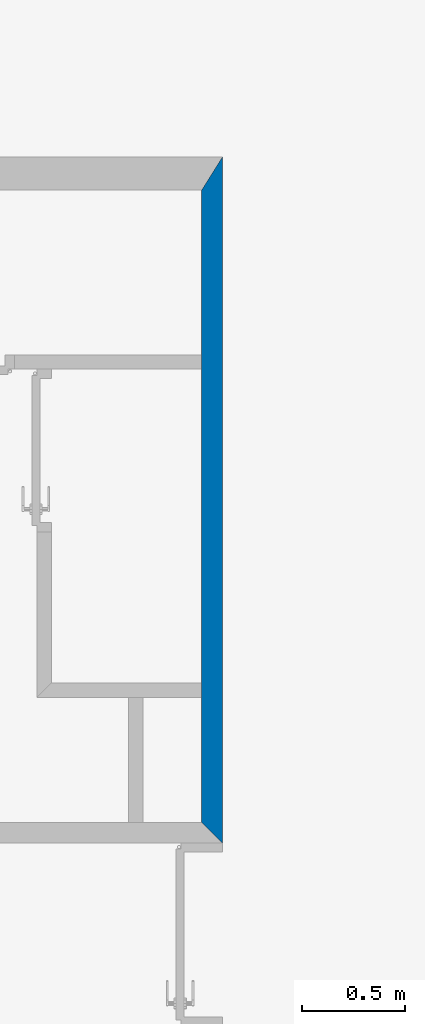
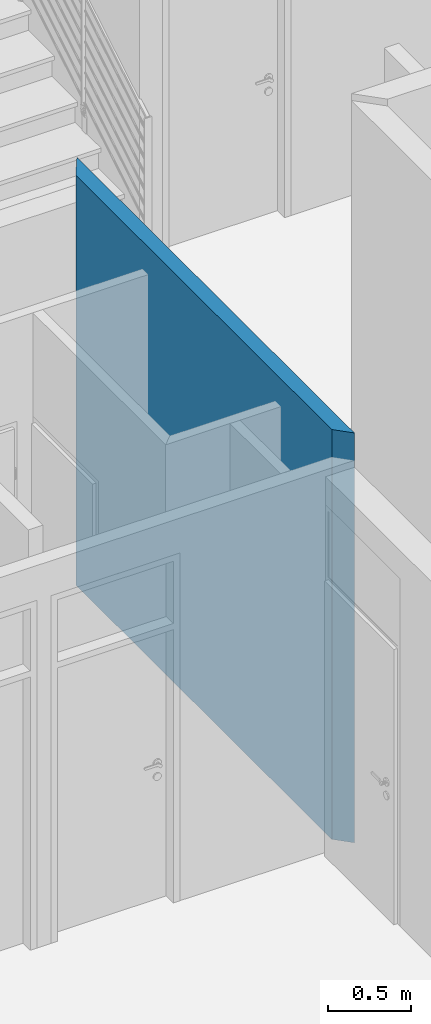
# One storey, part 13 of 45: 1 wall.
"""IFC2X3 building model written with IfcOpenShell, lengths in metres."""

import ifcopenshell
import ifcopenshell.guid

model = None  # the IFC model being written
_history = None  # IfcOwnerHistory: only IFC2X3 demands one
_inside = {}  # id of a spatial element -> (the spatial element, [elements in it])
_under = {}  # id of a project, library or spatial element -> (it, [spatial elements below it])
_declared = {}  # id of a project -> (the project, [libraries it declares])
_typed = {}  # id of a type object -> (the type object, [elements of that type])
_made_of = {}  # id of a material, layer set ... -> (it, [elements and type objects made of it])


def new_model(schema):
    """Start an empty IFC model of exactly this schema.

    Asked for "IFC4X3", IfcOpenShell would pick the latest addendum, in which some entities
    have other attributes; the version numbers below select the first issue.
    IFC2X3 requires an IfcOwnerHistory on every rooted entity: one is made here for all.
    """
    global model, _history
    if schema == "IFC4X3":
        model = ifcopenshell.file(schema_version=(4, 3, 0, 0))
    else:
        model = ifcopenshell.file(schema=schema)
    _inside.clear()
    _under.clear()
    _declared.clear()
    _typed.clear()
    _made_of.clear()
    _history = None
    if model.schema == "IFC2X3":
        org = make("IfcOrganization", Name="unknown")
        user = make(
            "IfcPersonAndOrganization",
            ThePerson=make("IfcPerson", FamilyName="unknown"),
            TheOrganization=org,
        )
        app = make(
            "IfcApplication",
            ApplicationDeveloper=org,
            Version="unknown",
            ApplicationFullName="unknown",
            ApplicationIdentifier="unknown",
        )
        _history = make(
            "IfcOwnerHistory",
            OwningUser=user,
            OwningApplication=app,
            ChangeAction="ADDED",
            CreationDate=0,
        )
    return model


def make(cls, **values):
    """One entity of the class cls with the attributes given. An attribute that is None is left unset."""
    return model.create_entity(
        cls, **{name: value for name, value in values.items() if value is not None}
    )


def entity(cls, *values):
    """Any entity or typed value of the class cls, its attributes in the order of the schema. None: left unset."""
    e = model.create_entity(cls)
    for i, value in enumerate(values):
        if value is not None:
            e[i] = value
    return e


def rooted(cls, **values):
    """An entity with a GlobalId (a new one), such as an element, a storey or a relation."""
    return make(cls, GlobalId=ifcopenshell.guid.new(), OwnerHistory=_history, **values)


def si_unit(unit_type, name, prefix=None):
    """IfcSIUnit, for example si_unit("LENGTHUNIT", "METRE", prefix="MILLI")."""
    return make("IfcSIUnit", UnitType=unit_type, Prefix=prefix, Name=name)


def converted_unit(unit_type, name, factor, base, dimensions=None, offset=None):
    """IfcConversionBasedUnit, such as the inch: factor (a typed value) times the base unit."""
    return make(
        "IfcConversionBasedUnit"
        if offset is None
        else "IfcConversionBasedUnitWithOffset",
        ConversionOffset=offset,
        Dimensions=None
        if dimensions is None
        else entity("IfcDimensionalExponents", *dimensions),
        UnitType=unit_type,
        Name=name,
        ConversionFactor=make(
            "IfcMeasureWithUnit", ValueComponent=factor, UnitComponent=base
        ),
    )


def money_unit(currency):
    """IfcMonetaryUnit."""
    return make("IfcMonetaryUnit", Currency=currency)


def assignment(units):
    """IfcUnitAssignment: the units of a project."""
    return None if units is None else make("IfcUnitAssignment", Units=units)


def point(xyz):
    """IfcCartesianPoint."""
    return None if xyz is None else make("IfcCartesianPoint", Coordinates=xyz)


def direction(xyz):
    """IfcDirection."""
    return None if xyz is None else make("IfcDirection", DirectionRatios=xyz)


def frame(location, z_axis=None, x_axis=None):
    """IfcAxis2Placement3D, a coordinate frame: its origin and axes. An axis left out is left unset."""
    return make(
        "IfcAxis2Placement3D",
        Location=point(location),
        Axis=direction(z_axis),
        RefDirection=direction(x_axis),
    )


def origin_with_axes():
    """The frame at (0, 0, 0) with the z axis (0, 0, 1) and the x axis (1, 0, 0) written out."""
    return frame((0.0, 0.0, 0.0), z_axis=(0.0, 0.0, 1.0), x_axis=(1.0, 0.0, 0.0))


def place(relative_to, where):
    """IfcLocalPlacement: puts the frame where relative to a parent placement (None: the world)."""
    return make(
        "IfcLocalPlacement", PlacementRelTo=relative_to, RelativePlacement=where
    )


def context(
    kind, dimensions, precision=None, world=None, true_north=None, identifier=None
):
    """IfcGeometricRepresentationContext, for example the 3D "Model" context."""
    return make(
        "IfcGeometricRepresentationContext",
        ContextIdentifier=identifier,
        ContextType=kind,
        CoordinateSpaceDimension=dimensions,
        Precision=precision,
        WorldCoordinateSystem=world,
        TrueNorth=true_north,
    )


def subcontext(parent, identifier, kind, view, scale=None):
    """IfcGeometricRepresentationSubContext, for example "Body" below "Model"."""
    return make(
        "IfcGeometricRepresentationSubContext",
        ContextIdentifier=identifier,
        ContextType=kind,
        ParentContext=parent,
        TargetScale=scale,
        TargetView=view,
    )


def project(units=None, contexts=None):
    """IfcProject with its units and contexts."""
    return rooted(
        "IfcProject",
        Name="project",
        RepresentationContexts=contexts,
        UnitsInContext=assignment(units),
    )


def spatial(cls, under=None, at=None, **own):
    """A site, building, storey or space (cls), placed at a placement, below another one or the project."""
    s = rooted(cls, ObjectPlacement=at, **own)
    if under is not None:
        _under.setdefault(under.id(), (under, []))[1].append(s)
    return s


def polyline(points):
    """IfcPolyline through the points."""
    return make("IfcPolyline", Points=[point(p) for p in points])


def outline(outer, holes=None, kind="AREA"):
    """IfcArbitraryClosedProfileDef: a profile drawn as a closed curve; with holes, ...WithVoids."""
    if holes is None:
        return make("IfcArbitraryClosedProfileDef", ProfileType=kind, OuterCurve=outer)
    return make(
        "IfcArbitraryProfileDefWithVoids",
        ProfileType=kind,
        OuterCurve=outer,
        InnerCurves=holes,
    )


def extrude(swept, where, along, depth):
    """IfcExtrudedAreaSolid: the profile swept, set in the frame where, extruded along a direction by depth."""
    return make(
        "IfcExtrudedAreaSolid",
        SweptArea=swept,
        Position=where,
        ExtrudedDirection=direction(along),
        Depth=depth,
    )


def shape(context_of_items, identifier, shape_type, items):
    """IfcShapeRepresentation: the items that make up one representation, for example the "Body"."""
    return make(
        "IfcShapeRepresentation",
        ContextOfItems=context_of_items,
        RepresentationIdentifier=identifier,
        RepresentationType=shape_type,
        Items=items,
    )


def material(Name=None, Category=None):
    """IfcMaterial."""
    return make("IfcMaterial", Name=Name, Category=Category)


def layer(
    of_material, thickness, ventilated=None, Name=None, Category=None, Priority=None
):
    """IfcMaterialLayer: one layer of a wall or slab, of a material (None: an air gap)."""
    return make(
        "IfcMaterialLayer",
        Material=of_material,
        LayerThickness=thickness,
        IsVentilated=ventilated,
        Name=Name,
        Category=Category,
        Priority=Priority,
    )


def layer_set(layers, Name=None):
    """IfcMaterialLayerSet."""
    return make("IfcMaterialLayerSet", MaterialLayers=layers, LayerSetName=Name)


def layer_usage(for_layer_set, set_direction, sense, offset, extent=None):
    """IfcMaterialLayerSetUsage: how a layer set lies in its element."""
    return make(
        "IfcMaterialLayerSetUsage",
        ForLayerSet=for_layer_set,
        LayerSetDirection=set_direction,
        DirectionSense=sense,
        OffsetFromReferenceLine=offset,
        ReferenceExtent=extent,
    )


def made_of(thing, what):
    """Note that an element or type object is made of a material, layer set ...; save() writes the relation."""
    if what is not None:
        _made_of.setdefault(what.id(), (what, []))[1].append(thing)
    return thing


def type_object(cls, material=None, **own):
    """A type object (cls), such as IfcWallType, which elements share."""
    return made_of(rooted(cls, **own), material)


def element(
    cls,
    number,
    at=None,
    inside=None,
    cuts=None,
    type_object=None,
    material=None,
    context=None,
    identifier="Body",
    shape_type=None,
    held_by="IfcProductDefinitionShape",
    body=None,
    shapes=None,
    **own,
):
    """One element of the class cls, such as IfcWall. Its Tag is "e" and its number.

    at: its placement. inside: the storey or other place that contains it. cuts: it is an
    opening in that element (IfcRelVoidsElement). A single representation is given by context,
    identifier, shape_type and body (its items); several are given by shapes. held_by: the class
    of the entity that holds the representations. save() writes the other relations.
    """
    e = rooted(cls, Tag="e%d" % number, ObjectPlacement=at, **own)
    if body is not None:
        shapes = [shape(context, identifier, shape_type, body)]
    if shapes is not None:
        e.Representation = make(held_by, Representations=shapes)
    if inside is not None:
        _inside.setdefault(inside.id(), (inside, []))[1].append(e)
    if cuts is not None:
        rooted(
            "IfcRelVoidsElement", RelatingBuildingElement=cuts, RelatedOpeningElement=e
        )
    if type_object is not None:
        _typed.setdefault(type_object.id(), (type_object, []))[1].append(e)
    return made_of(e, material)


def aggregate(whole, parts):
    """IfcRelAggregates: a whole, such as a stair, and the parts it consists of."""
    return rooted("IfcRelAggregates", RelatingObject=whole, RelatedObjects=parts)


def save(model, path):
    """Write the relations noted so far, then the file.

    IfcRelAggregates (storeys below a building ...), IfcRelContainedInSpatialStructure (elements
    in a storey), IfcRelDefinesByType, IfcRelAssociatesMaterial and IfcRelDeclares: one each for
    every whole, place, type object, material and project.
    """
    for whole, parts in _under.values():
        aggregate(whole, parts)
    for where, things in _inside.values():
        rooted(
            "IfcRelContainedInSpatialStructure",
            RelatedElements=things,
            RelatingStructure=where,
        )
    for kind, things in _typed.values():
        rooted("IfcRelDefinesByType", RelatedObjects=things, RelatingType=kind)
    for what, things in _made_of.values():
        rooted("IfcRelAssociatesMaterial", RelatedObjects=things, RelatingMaterial=what)
    for by, libraries in _declared.values():
        rooted("IfcRelDeclares", RelatingContext=by, RelatedDefinitions=libraries)
    model.write(path)


model = new_model("IFC2X3")

# Units and contexts
model_context = context("Model", 3, precision=1e-05, world=origin_with_axes(), true_north=direction((0.0, 1.0)))
body_context = subcontext(model_context, "Body", "Model", "MODEL_VIEW")
ifc_project = project(units=[si_unit("LENGTHUNIT", "METRE"), si_unit("AREAUNIT", "SQUARE_METRE"), si_unit("VOLUMEUNIT", "CUBIC_METRE"), converted_unit("PLANEANGLEUNIT", "DEGREE", entity("IfcPlaneAngleMeasure", 0.0174532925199), si_unit("PLANEANGLEUNIT", "RADIAN"), dimensions=[0, 0, 0, 0, 0, 0, 0]), si_unit("SOLIDANGLEUNIT", "STERADIAN"), money_unit("EUR"), converted_unit("TIMEUNIT", "Year", entity("IfcTimeMeasure", 31556926.0), si_unit("TIMEUNIT", "SECOND"), dimensions=[0, 0, 0, 0, 0, 0, 0]), si_unit("MASSUNIT", "GRAM"), si_unit("THERMODYNAMICTEMPERATUREUNIT", "DEGREE_CELSIUS"), si_unit("LUMINOUSINTENSITYUNIT", "LUMEN")], contexts=[model_context])

# Site, building, storey
site_placement = place(None, origin_with_axes())
site = spatial("IfcSite", under=ifc_project, at=site_placement, Name="Site", CompositionType="ELEMENT")
building_placement = place(site_placement, origin_with_axes())
building = spatial("IfcBuilding", under=site, at=building_placement, Name="Bâtiment", CompositionType="ELEMENT")
storey_placement = place(building_placement, origin_with_axes())
storey = spatial("IfcBuildingStorey", under=building, at=storey_placement, Name="NIVEAU BAS GYMNASE", CompositionType="ELEMENT", Elevation=0.0)

# Wall
ifc_material = material(Name="Hachure solide* 3962059836")
ifc_layer = layer(ifc_material, 0.1, ventilated="UNKNOWN")
ifc_layer_set = layer_set([ifc_layer], Name="Hachure solide* 3962059836 0.1")
ifc_layer_usage = layer_usage(ifc_layer_set, "AXIS2", "POSITIVE", 0.0)
wall_type = type_object("IfcWallType", Name="Hachure solide* 3962059836 100", PredefinedType="NOTDEFINED")
wall_placement = place(storey_placement, frame((49.838457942, 13.108815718, 0.0), z_axis=(0.0, 0.0, 1.0), x_axis=(0.0, -1.0, 0.0)))
element("IfcWallStandardCase", 1, at=wall_placement, inside=storey, type_object=wall_type, material=ifc_layer_usage, Name="Mur-004", context=body_context, shape_type="SweptSolid", body=[
    extrude(outline(polyline([(0.0, 0.0), (3.07000000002, 0.0), (3.17000000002, 0.1), (-0.16, 0.1), (0.0, 0.0)])), origin_with_axes(), (0.0, 0.0, 1.0), 3.0),
])

save(model, "model.ifc")
